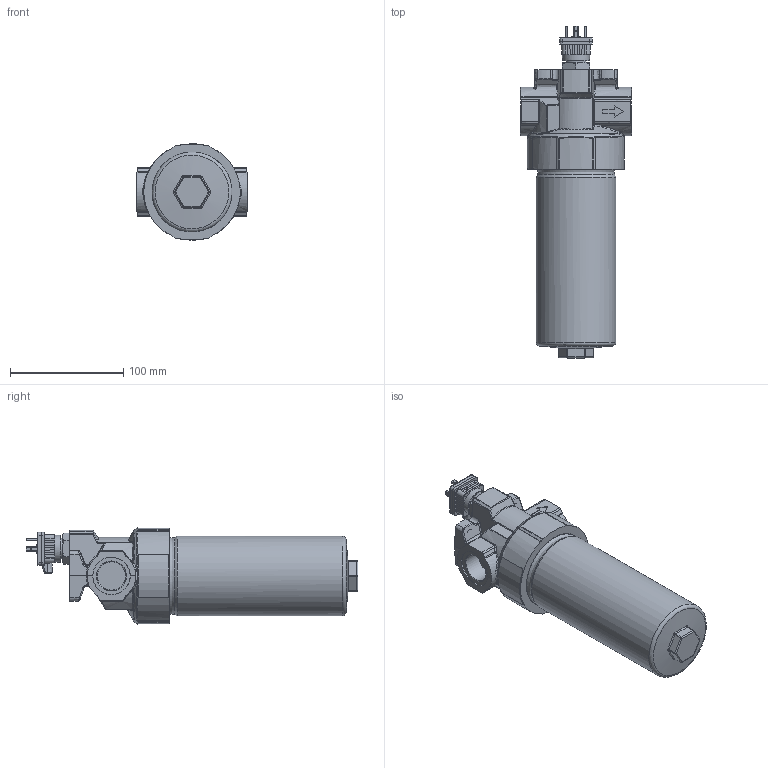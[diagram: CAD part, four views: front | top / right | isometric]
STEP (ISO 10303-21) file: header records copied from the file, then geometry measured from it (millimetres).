
FILE_DESCRIPTION((''),'2;1');
FILE_NAME('U:\Users\i.maeder\34308300_D112-156ED8.stp', '2016-08-29T09:27:31',('User'),('SDRC'),'I-DEAS Master Series 9','UNIX', 'Yes');
FILE_SCHEMA(('AUTOMOTIVE_DESIGN { 1 0 10303 214 1 1 1 1 }'));
Length unit declared in the file: millimetre
Products named in the file (1): 34308300
Bounding box: 98 x 292.9 x 84.95 mm (x, y, z)
Volume: 1018577.1 mm3; surface area: 81493.7 mm2
Topology: 1 solids, 7 shells, 1091 faces, 2935 edges, 1860 vertices
Faces by surface type: bspline 1091
Entity records: 46340 total; most frequent: CARTESIAN_POINT 29692, ORIENTED_EDGE 5800, EDGE_CURVE 2900, VERTEX_POINT 1860, B_SPLINE_CURVE_WITH_KNOTS 1747, EDGE_LOOP 1134, FACE_OUTER_BOUND 1091, ADVANCED_FACE 1091
